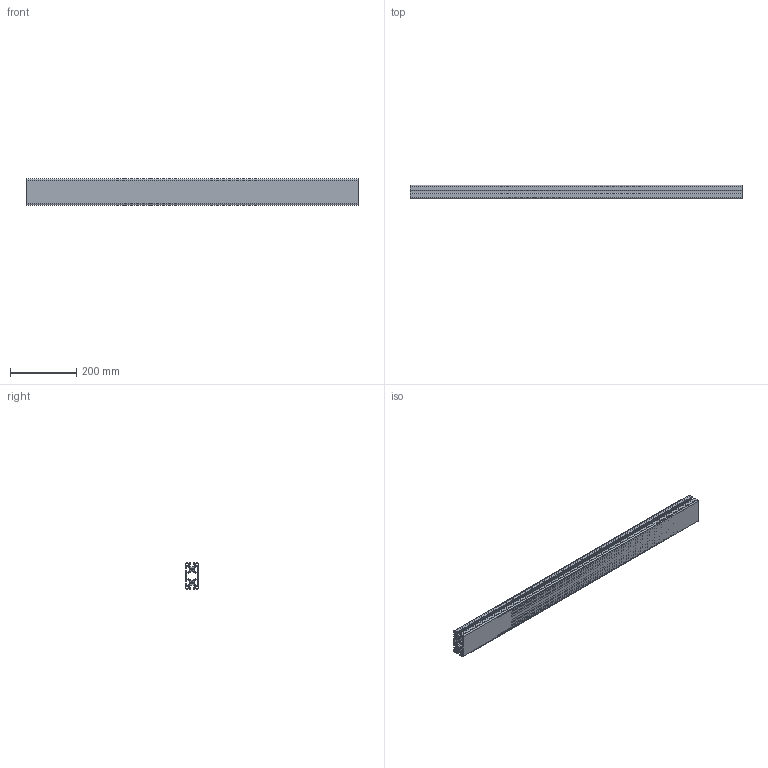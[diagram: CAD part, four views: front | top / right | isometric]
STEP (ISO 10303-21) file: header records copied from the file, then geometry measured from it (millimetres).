
FILE_DESCRIPTION (( 'STEP AP203' ), '1' );
FILE_NAME ('10426_PRO_80x40_L_2N.STEP', '2016-03-02T06:07:21', ( '' ), ( '' ), 'SwSTEP 2.0', 'SolidWorks 2015', '' );
FILE_SCHEMA (( 'CONFIG_CONTROL_DESIGN' ));
Length unit declared in the file: millimetre
Products named in the file (1): 10426_PRO_80x40_L_2N
Bounding box: 1000 x 40 x 80 mm (x, y, z)
Volume: 1181061.3 mm3; surface area: 791576.6 mm2
Topology: 1 solids, 1 shells, 234 faces, 696 edges, 464 vertices
Faces by surface type: cylinder 120, plane 114
Entity records: 8033 total; most frequent: DIRECTION 1406, CARTESIAN_POINT 1395, ORIENTED_EDGE 1392, EDGE_CURVE 696, AXIS2_PLACEMENT_3D 475, VERTEX_POINT 464, VECTOR 456, LINE 456
